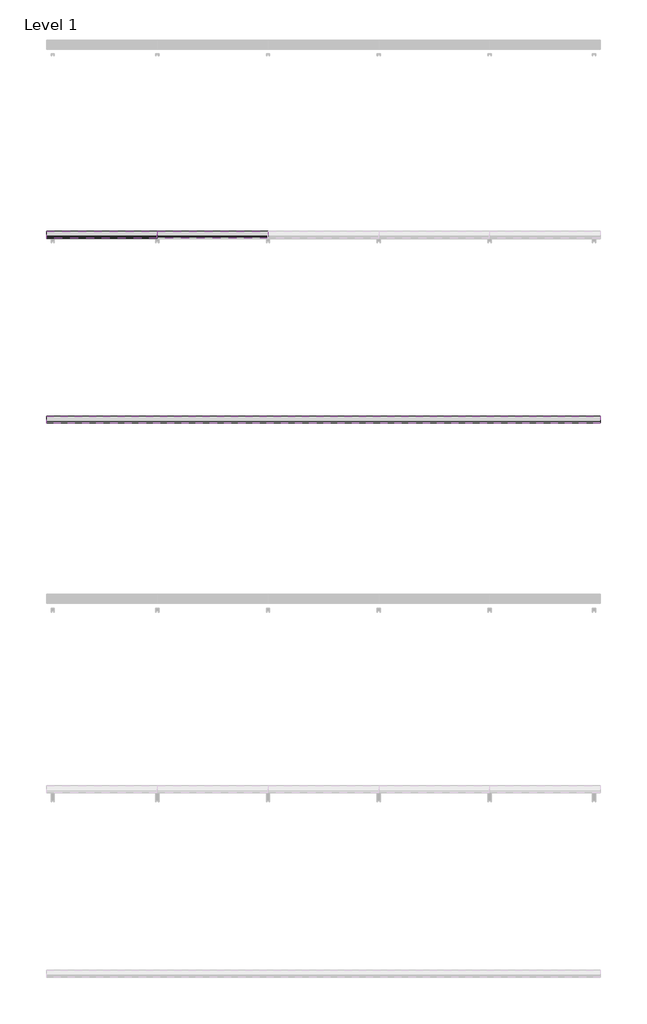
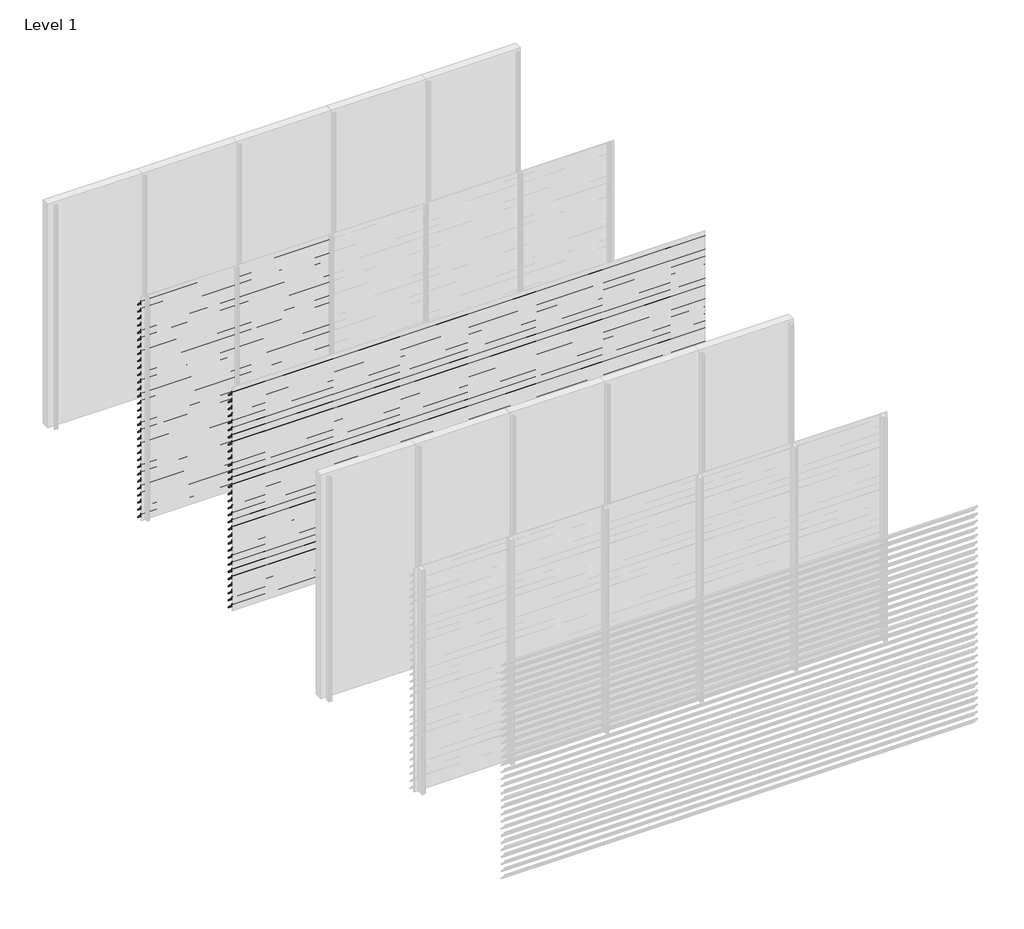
# One storey, part 18 of 24: 89 proxies.
"""IFC4 building model written with IfcOpenShell, lengths in millimetres."""

from ifc_helpers import new_model, si_unit, frame, origin, place, context, project, spatial, polyline, outline, extrude, element, save

model = new_model("IFC4")

# Units and contexts
model_context = context("Model", 3, world=origin())
ifc_project = project(units=[si_unit("LENGTHUNIT", "METRE", prefix="MILLI")], contexts=[model_context])

# Site, building, storey
site = spatial("IfcSite", under=ifc_project)
building = spatial("IfcBuilding", under=site)
storey = spatial("IfcBuildingStorey", under=building, Name="Level 1", Elevation=0.0)

# Proxies
placement = place(None, origin())
element("IfcBuildingElementProxy", 1, Name="Wall Sweeps", at=placement, inside=storey, context=model_context, shape_type="SweptSolid", body=[
    extrude(outline(polyline([(-11920.8, 2842.9), (-11922.3, 2842.9), (-11922.3, 2855.1762333), (-11998.0, 2930.4561238), (-11998.0, 2945.0), (-11996.5, 2945.0), (-11996.5, 2931.0798905), (-11920.8, 2855.8), (-11920.8, 2842.9)])), frame((0.0, 0.0, 0.0), z_axis=(1.0, 0.0, 0.0), x_axis=(0.0, 1.0, 0.0)), (0.0, 0.0, 1.0), 1200.0),
])
element("IfcBuildingElementProxy", 2, Name="Wall Sweeps", at=placement, inside=storey, context=model_context, shape_type="SweptSolid", body=[
    extrude(outline(polyline([(-11920.8, 2747.9), (-11922.3, 2747.9), (-11922.3, 2760.1762333), (-11998.0, 2835.4561238), (-11998.0, 2850.0), (-11996.5, 2850.0), (-11996.5, 2836.0798905), (-11920.8, 2760.8), (-11920.8, 2747.9)])), frame((0.0, 0.0, 0.0), z_axis=(1.0, 0.0, 0.0), x_axis=(0.0, 1.0, 0.0)), (0.0, 0.0, 1.0), 1200.0),
])
element("IfcBuildingElementProxy", 3, Name="Wall Sweeps", at=placement, inside=storey, context=model_context, shape_type="SweptSolid", body=[
    extrude(outline(polyline([(-11920.8, 2652.9), (-11922.3, 2652.9), (-11922.3, 2665.1762333), (-11998.0, 2740.4561238), (-11998.0, 2755.0), (-11996.5, 2755.0), (-11996.5, 2741.0798905), (-11920.8, 2665.8), (-11920.8, 2652.9)])), frame((0.0, 0.0, 0.0), z_axis=(1.0, 0.0, 0.0), x_axis=(0.0, 1.0, 0.0)), (0.0, 0.0, 1.0), 1200.0),
])
element("IfcBuildingElementProxy", 4, Name="Wall Sweeps", at=placement, inside=storey, context=model_context, shape_type="SweptSolid", body=[
    extrude(outline(polyline([(-11920.8, 2557.9), (-11922.3, 2557.9), (-11922.3, 2570.1762333), (-11998.0, 2645.4561238), (-11998.0, 2660.0), (-11996.5, 2660.0), (-11996.5, 2646.0798905), (-11920.8, 2570.8), (-11920.8, 2557.9)])), frame((0.0, 0.0, 0.0), z_axis=(1.0, 0.0, 0.0), x_axis=(0.0, 1.0, 0.0)), (0.0, 0.0, 1.0), 1200.0),
])
element("IfcBuildingElementProxy", 5, Name="Wall Sweeps", at=placement, inside=storey, context=model_context, shape_type="SweptSolid", body=[
    extrude(outline(polyline([(-11920.8, 2462.9), (-11922.3, 2462.9), (-11922.3, 2475.1762333), (-11998.0, 2550.4561238), (-11998.0, 2565.0), (-11996.5, 2565.0), (-11996.5, 2551.0798905), (-11920.8, 2475.8), (-11920.8, 2462.9)])), frame((0.0, 0.0, 0.0), z_axis=(1.0, 0.0, 0.0), x_axis=(0.0, 1.0, 0.0)), (0.0, 0.0, 1.0), 1200.0),
])
element("IfcBuildingElementProxy", 6, Name="Wall Sweeps", at=placement, inside=storey, context=model_context, shape_type="SweptSolid", body=[
    extrude(outline(polyline([(-11920.8, 2367.9), (-11922.3, 2367.9), (-11922.3, 2380.1762333), (-11998.0, 2455.4561238), (-11998.0, 2470.0), (-11996.5, 2470.0), (-11996.5, 2456.0798905), (-11920.8, 2380.8), (-11920.8, 2367.9)])), frame((0.0, 0.0, 0.0), z_axis=(1.0, 0.0, 0.0), x_axis=(0.0, 1.0, 0.0)), (0.0, 0.0, 1.0), 1200.0),
])
element("IfcBuildingElementProxy", 7, Name="Wall Sweeps", at=placement, inside=storey, context=model_context, shape_type="SweptSolid", body=[
    extrude(outline(polyline([(-11920.8, 2272.9), (-11922.3, 2272.9), (-11922.3, 2285.1762333), (-11998.0, 2360.4561238), (-11998.0, 2375.0), (-11996.5, 2375.0), (-11996.5, 2361.0798905), (-11920.8, 2285.8), (-11920.8, 2272.9)])), frame((0.0, 0.0, 0.0), z_axis=(1.0, 0.0, 0.0), x_axis=(0.0, 1.0, 0.0)), (0.0, 0.0, 1.0), 1200.0),
])
element("IfcBuildingElementProxy", 8, Name="Wall Sweeps", at=placement, inside=storey, context=model_context, shape_type="SweptSolid", body=[
    extrude(outline(polyline([(-11920.8, 2177.9), (-11922.3, 2177.9), (-11922.3, 2190.1762333), (-11998.0, 2265.4561238), (-11998.0, 2280.0), (-11996.5, 2280.0), (-11996.5, 2266.0798905), (-11920.8, 2190.8), (-11920.8, 2177.9)])), frame((0.0, 0.0, 0.0), z_axis=(1.0, 0.0, 0.0), x_axis=(0.0, 1.0, 0.0)), (0.0, 0.0, 1.0), 1200.0),
])
element("IfcBuildingElementProxy", 9, Name="Wall Sweeps", at=placement, inside=storey, context=model_context, shape_type="SweptSolid", body=[
    extrude(outline(polyline([(-11920.8, 2082.9), (-11922.3, 2082.9), (-11922.3, 2095.1762333), (-11998.0, 2170.4561238), (-11998.0, 2185.0), (-11996.5, 2185.0), (-11996.5, 2171.0798905), (-11920.8, 2095.8), (-11920.8, 2082.9)])), frame((0.0, 0.0, 0.0), z_axis=(1.0, 0.0, 0.0), x_axis=(0.0, 1.0, 0.0)), (0.0, 0.0, 1.0), 1200.0),
])
element("IfcBuildingElementProxy", 10, Name="Wall Sweeps", at=placement, inside=storey, context=model_context, shape_type="SweptSolid", body=[
    extrude(outline(polyline([(-11920.8, 1987.9), (-11922.3, 1987.9), (-11922.3, 2000.1762333), (-11998.0, 2075.4561238), (-11998.0, 2090.0), (-11996.5, 2090.0), (-11996.5, 2076.0798905), (-11920.8, 2000.8), (-11920.8, 1987.9)])), frame((0.0, 0.0, 0.0), z_axis=(1.0, 0.0, 0.0), x_axis=(0.0, 1.0, 0.0)), (0.0, 0.0, 1.0), 1200.0),
])
element("IfcBuildingElementProxy", 11, Name="Wall Sweeps", at=placement, inside=storey, context=model_context, shape_type="SweptSolid", body=[
    extrude(outline(polyline([(-11920.8, 1892.9), (-11922.3, 1892.9), (-11922.3, 1905.1762333), (-11998.0, 1980.4561238), (-11998.0, 1995.0), (-11996.5, 1995.0), (-11996.5, 1981.0798905), (-11920.8, 1905.8), (-11920.8, 1892.9)])), frame((0.0, 0.0, 0.0), z_axis=(1.0, 0.0, 0.0), x_axis=(0.0, 1.0, 0.0)), (0.0, 0.0, 1.0), 1200.0),
])
element("IfcBuildingElementProxy", 12, Name="Wall Sweeps", at=placement, inside=storey, context=model_context, shape_type="SweptSolid", body=[
    extrude(outline(polyline([(-11920.8, 1797.9), (-11922.3, 1797.9), (-11922.3, 1810.1762333), (-11998.0, 1885.4561238), (-11998.0, 1900.0), (-11996.5, 1900.0), (-11996.5, 1886.0798905), (-11920.8, 1810.8), (-11920.8, 1797.9)])), frame((0.0, 0.0, 0.0), z_axis=(1.0, 0.0, 0.0), x_axis=(0.0, 1.0, 0.0)), (0.0, 0.0, 1.0), 1200.0),
])
element("IfcBuildingElementProxy", 13, Name="Wall Sweeps", at=placement, inside=storey, context=model_context, shape_type="SweptSolid", body=[
    extrude(outline(polyline([(-11920.8, 1702.9), (-11922.3, 1702.9), (-11922.3, 1715.1762333), (-11998.0, 1790.4561238), (-11998.0, 1805.0), (-11996.5, 1805.0), (-11996.5, 1791.0798905), (-11920.8, 1715.8), (-11920.8, 1702.9)])), frame((0.0, 0.0, 0.0), z_axis=(1.0, 0.0, 0.0), x_axis=(0.0, 1.0, 0.0)), (0.0, 0.0, 1.0), 1200.0),
])
element("IfcBuildingElementProxy", 14, Name="Wall Sweeps", at=placement, inside=storey, context=model_context, shape_type="SweptSolid", body=[
    extrude(outline(polyline([(-11920.8, 1607.9), (-11922.3, 1607.9), (-11922.3, 1620.1762333), (-11998.0, 1695.4561238), (-11998.0, 1710.0), (-11996.5, 1710.0), (-11996.5, 1696.0798905), (-11920.8, 1620.8), (-11920.8, 1607.9)])), frame((0.0, 0.0, 0.0), z_axis=(1.0, 0.0, 0.0), x_axis=(0.0, 1.0, 0.0)), (0.0, 0.0, 1.0), 1200.0),
])
element("IfcBuildingElementProxy", 15, Name="Wall Sweeps", at=placement, inside=storey, context=model_context, shape_type="SweptSolid", body=[
    extrude(outline(polyline([(-11920.8, 1512.9), (-11922.3, 1512.9), (-11922.3, 1525.1762333), (-11998.0, 1600.4561238), (-11998.0, 1615.0), (-11996.5, 1615.0), (-11996.5, 1601.0798905), (-11920.8, 1525.8), (-11920.8, 1512.9)])), frame((0.0, 0.0, 0.0), z_axis=(1.0, 0.0, 0.0), x_axis=(0.0, 1.0, 0.0)), (0.0, 0.0, 1.0), 1200.0),
])
element("IfcBuildingElementProxy", 16, Name="Wall Sweeps", at=placement, inside=storey, context=model_context, shape_type="SweptSolid", body=[
    extrude(outline(polyline([(-11920.8, 1417.9), (-11922.3, 1417.9), (-11922.3, 1430.1762333), (-11998.0, 1505.4561238), (-11998.0, 1520.0), (-11996.5, 1520.0), (-11996.5, 1506.0798905), (-11920.8, 1430.8), (-11920.8, 1417.9)])), frame((0.0, 0.0, 0.0), z_axis=(1.0, 0.0, 0.0), x_axis=(0.0, 1.0, 0.0)), (0.0, 0.0, 1.0), 1200.0),
])
element("IfcBuildingElementProxy", 17, Name="Wall Sweeps", at=placement, inside=storey, context=model_context, shape_type="SweptSolid", body=[
    extrude(outline(polyline([(-11920.8, 1322.9), (-11922.3, 1322.9), (-11922.3, 1335.1762333), (-11998.0, 1410.4561238), (-11998.0, 1425.0), (-11996.5, 1425.0), (-11996.5, 1411.0798905), (-11920.8, 1335.8), (-11920.8, 1322.9)])), frame((0.0, 0.0, 0.0), z_axis=(1.0, 0.0, 0.0), x_axis=(0.0, 1.0, 0.0)), (0.0, 0.0, 1.0), 1200.0),
])
element("IfcBuildingElementProxy", 18, Name="Wall Sweeps", at=placement, inside=storey, context=model_context, shape_type="SweptSolid", body=[
    extrude(outline(polyline([(-11920.8, 1227.9), (-11922.3, 1227.9), (-11922.3, 1240.1762333), (-11998.0, 1315.4561238), (-11998.0, 1330.0), (-11996.5, 1330.0), (-11996.5, 1316.0798905), (-11920.8, 1240.8), (-11920.8, 1227.9)])), frame((0.0, 0.0, 0.0), z_axis=(1.0, 0.0, 0.0), x_axis=(0.0, 1.0, 0.0)), (0.0, 0.0, 1.0), 1200.0),
])
element("IfcBuildingElementProxy", 19, Name="Wall Sweeps", at=placement, inside=storey, context=model_context, shape_type="SweptSolid", body=[
    extrude(outline(polyline([(-11920.8, 1132.9), (-11922.3, 1132.9), (-11922.3, 1145.1762333), (-11998.0, 1220.4561238), (-11998.0, 1235.0), (-11996.5, 1235.0), (-11996.5, 1221.0798905), (-11920.8, 1145.8), (-11920.8, 1132.9)])), frame((0.0, 0.0, 0.0), z_axis=(1.0, 0.0, 0.0), x_axis=(0.0, 1.0, 0.0)), (0.0, 0.0, 1.0), 1200.0),
])
element("IfcBuildingElementProxy", 20, Name="Wall Sweeps", at=placement, inside=storey, context=model_context, shape_type="SweptSolid", body=[
    extrude(outline(polyline([(-11920.8, 1037.9), (-11922.3, 1037.9), (-11922.3, 1050.1762333), (-11998.0, 1125.4561238), (-11998.0, 1140.0), (-11996.5, 1140.0), (-11996.5, 1126.0798905), (-11920.8, 1050.8), (-11920.8, 1037.9)])), frame((0.0, 0.0, 0.0), z_axis=(1.0, 0.0, 0.0), x_axis=(0.0, 1.0, 0.0)), (0.0, 0.0, 1.0), 1200.0),
])
element("IfcBuildingElementProxy", 21, Name="Wall Sweeps", at=placement, inside=storey, context=model_context, shape_type="SweptSolid", body=[
    extrude(outline(polyline([(-11920.8, 942.9), (-11922.3, 942.9), (-11922.3, 955.1762333), (-11998.0, 1030.4561238), (-11998.0, 1045.0), (-11996.5, 1045.0), (-11996.5, 1031.0798905), (-11920.8, 955.8), (-11920.8, 942.9)])), frame((0.0, 0.0, 0.0), z_axis=(1.0, 0.0, 0.0), x_axis=(0.0, 1.0, 0.0)), (0.0, 0.0, 1.0), 1200.0),
])
element("IfcBuildingElementProxy", 22, Name="Wall Sweeps", at=placement, inside=storey, context=model_context, shape_type="SweptSolid", body=[
    extrude(outline(polyline([(-11920.8, 847.9), (-11922.3, 847.9), (-11922.3, 860.1762333), (-11998.0, 935.4561238), (-11998.0, 950.0), (-11996.5, 950.0), (-11996.5, 936.0798905), (-11920.8, 860.8), (-11920.8, 847.9)])), frame((0.0, 0.0, 0.0), z_axis=(1.0, 0.0, 0.0), x_axis=(0.0, 1.0, 0.0)), (0.0, 0.0, 1.0), 1200.0),
])
element("IfcBuildingElementProxy", 23, Name="Wall Sweeps", at=placement, inside=storey, context=model_context, shape_type="SweptSolid", body=[
    extrude(outline(polyline([(-11920.8, 752.9), (-11922.3, 752.9), (-11922.3, 765.1762333), (-11998.0, 840.4561238), (-11998.0, 855.0), (-11996.5, 855.0), (-11996.5, 841.0798905), (-11920.8, 765.8), (-11920.8, 752.9)])), frame((0.0, 0.0, 0.0), z_axis=(1.0, 0.0, 0.0), x_axis=(0.0, 1.0, 0.0)), (0.0, 0.0, 1.0), 1200.0),
])
element("IfcBuildingElementProxy", 24, Name="Wall Sweeps", at=placement, inside=storey, context=model_context, shape_type="SweptSolid", body=[
    extrude(outline(polyline([(-11920.8, 657.9), (-11922.3, 657.9), (-11922.3, 670.1762333), (-11998.0, 745.4561238), (-11998.0, 760.0), (-11996.5, 760.0), (-11996.5, 746.0798905), (-11920.8, 670.8), (-11920.8, 657.9)])), frame((0.0, 0.0, 0.0), z_axis=(1.0, 0.0, 0.0), x_axis=(0.0, 1.0, 0.0)), (0.0, 0.0, 1.0), 1200.0),
])
element("IfcBuildingElementProxy", 25, Name="Wall Sweeps", at=placement, inside=storey, context=model_context, shape_type="SweptSolid", body=[
    extrude(outline(polyline([(-11920.8, 562.9), (-11922.3, 562.9), (-11922.3, 575.1762333), (-11998.0, 650.4561238), (-11998.0, 665.0), (-11996.5, 665.0), (-11996.5, 651.0798905), (-11920.8, 575.8), (-11920.8, 562.9)])), frame((0.0, 0.0, 0.0), z_axis=(1.0, 0.0, 0.0), x_axis=(0.0, 1.0, 0.0)), (0.0, 0.0, 1.0), 1200.0),
])
element("IfcBuildingElementProxy", 26, Name="Wall Sweeps", at=placement, inside=storey, context=model_context, shape_type="SweptSolid", body=[
    extrude(outline(polyline([(-11920.8, 467.9), (-11922.3, 467.9), (-11922.3, 480.1762333), (-11998.0, 555.4561238), (-11998.0, 570.0), (-11996.5, 570.0), (-11996.5, 556.0798905), (-11920.8, 480.8), (-11920.8, 467.9)])), frame((0.0, 0.0, 0.0), z_axis=(1.0, 0.0, 0.0), x_axis=(0.0, 1.0, 0.0)), (0.0, 0.0, 1.0), 1200.0),
])
element("IfcBuildingElementProxy", 27, Name="Wall Sweeps", at=placement, inside=storey, context=model_context, shape_type="SweptSolid", body=[
    extrude(outline(polyline([(-11920.8, 372.9), (-11922.3, 372.9), (-11922.3, 385.1762333), (-11998.0, 460.4561238), (-11998.0, 475.0), (-11996.5, 475.0), (-11996.5, 461.0798905), (-11920.8, 385.8), (-11920.8, 372.9)])), frame((0.0, 0.0, 0.0), z_axis=(1.0, 0.0, 0.0), x_axis=(0.0, 1.0, 0.0)), (0.0, 0.0, 1.0), 1200.0),
])
element("IfcBuildingElementProxy", 28, Name="Wall Sweeps", at=placement, inside=storey, context=model_context, shape_type="SweptSolid", body=[
    extrude(outline(polyline([(-11920.8, 277.9), (-11922.3, 277.9), (-11922.3, 290.1762333), (-11998.0, 365.4561238), (-11998.0, 380.0), (-11996.5, 380.0), (-11996.5, 366.0798905), (-11920.8, 290.8), (-11920.8, 277.9)])), frame((0.0, 0.0, 0.0), z_axis=(1.0, 0.0, 0.0), x_axis=(0.0, 1.0, 0.0)), (0.0, 0.0, 1.0), 1200.0),
])
element("IfcBuildingElementProxy", 29, Name="Wall Sweeps", at=placement, inside=storey, context=model_context, shape_type="SweptSolid", body=[
    extrude(outline(polyline([(-11920.8, 182.9), (-11922.3, 182.9), (-11922.3, 195.1762333), (-11998.0, 270.4561238), (-11998.0, 285.0), (-11996.5, 285.0), (-11996.5, 271.0798905), (-11920.8, 195.8), (-11920.8, 182.9)])), frame((0.0, 0.0, 0.0), z_axis=(1.0, 0.0, 0.0), x_axis=(0.0, 1.0, 0.0)), (0.0, 0.0, 1.0), 1200.0),
])
element("IfcBuildingElementProxy", 30, Name="Wall Sweeps", at=placement, inside=storey, context=model_context, shape_type="SweptSolid", body=[
    extrude(outline(polyline([(-11920.8, 87.9), (-11922.3, 87.9), (-11922.3, 100.1762333), (-11998.0, 175.4561238), (-11998.0, 190.0), (-11996.5, 190.0), (-11996.5, 176.0798905), (-11920.8, 100.8), (-11920.8, 87.9)])), frame((0.0, 0.0, 0.0), z_axis=(1.0, 0.0, 0.0), x_axis=(0.0, 1.0, 0.0)), (0.0, 0.0, 1.0), 1200.0),
])
element("IfcBuildingElementProxy", 31, Name="Wall Sweeps", at=placement, inside=storey, context=model_context, shape_type="SweptSolid", body=[
    extrude(outline(polyline([(-11920.8, -7.1), (-11922.3, -7.1), (-11922.3, 5.1762333), (-11998.0, 80.4561238), (-11998.0, 95.0), (-11996.5, 95.0), (-11996.5, 81.0798905), (-11920.8, 5.8), (-11920.8, -7.1)])), frame((0.0, 0.0, 0.0), z_axis=(1.0, 0.0, 0.0), x_axis=(0.0, 1.0, 0.0)), (0.0, 0.0, 1.0), 1200.0),
])
element("IfcBuildingElementProxy", 32, Name="Wall Sweeps", at=placement, inside=storey, context=model_context, shape_type="SweptSolid", body=[
    extrude(outline(polyline([(-11920.8, 2842.9), (-11922.3, 2842.9), (-11922.3, 2855.1762333), (-11998.0, 2930.4561238), (-11998.0, 2945.0), (-11996.5, 2945.0), (-11996.5, 2931.0798905), (-11920.8, 2855.8), (-11920.8, 2842.9)])), frame((1200.0, 0.0, 0.0), z_axis=(1.0, 0.0, 0.0), x_axis=(0.0, 1.0, 0.0)), (0.0, 0.0, 1.0), 1200.0),
])
element("IfcBuildingElementProxy", 33, Name="Wall Sweeps", at=placement, inside=storey, context=model_context, shape_type="SweptSolid", body=[
    extrude(outline(polyline([(-11920.8, 2747.9), (-11922.3, 2747.9), (-11922.3, 2760.1762333), (-11998.0, 2835.4561238), (-11998.0, 2850.0), (-11996.5, 2850.0), (-11996.5, 2836.0798905), (-11920.8, 2760.8), (-11920.8, 2747.9)])), frame((1200.0, 0.0, 0.0), z_axis=(1.0, 0.0, 0.0), x_axis=(0.0, 1.0, 0.0)), (0.0, 0.0, 1.0), 1200.0),
])
element("IfcBuildingElementProxy", 34, Name="Wall Sweeps", at=placement, inside=storey, context=model_context, shape_type="SweptSolid", body=[
    extrude(outline(polyline([(-11920.8, 2652.9), (-11922.3, 2652.9), (-11922.3, 2665.1762333), (-11998.0, 2740.4561238), (-11998.0, 2755.0), (-11996.5, 2755.0), (-11996.5, 2741.0798905), (-11920.8, 2665.8), (-11920.8, 2652.9)])), frame((1200.0, 0.0, 0.0), z_axis=(1.0, 0.0, 0.0), x_axis=(0.0, 1.0, 0.0)), (0.0, 0.0, 1.0), 1200.0),
])
element("IfcBuildingElementProxy", 35, Name="Wall Sweeps", at=placement, inside=storey, context=model_context, shape_type="SweptSolid", body=[
    extrude(outline(polyline([(-11920.8, 2557.9), (-11922.3, 2557.9), (-11922.3, 2570.1762333), (-11998.0, 2645.4561238), (-11998.0, 2660.0), (-11996.5, 2660.0), (-11996.5, 2646.0798905), (-11920.8, 2570.8), (-11920.8, 2557.9)])), frame((1200.0, 0.0, 0.0), z_axis=(1.0, 0.0, 0.0), x_axis=(0.0, 1.0, 0.0)), (0.0, 0.0, 1.0), 1200.0),
])
element("IfcBuildingElementProxy", 36, Name="Wall Sweeps", at=placement, inside=storey, context=model_context, shape_type="SweptSolid", body=[
    extrude(outline(polyline([(-11920.8, 2462.9), (-11922.3, 2462.9), (-11922.3, 2475.1762333), (-11998.0, 2550.4561238), (-11998.0, 2565.0), (-11996.5, 2565.0), (-11996.5, 2551.0798905), (-11920.8, 2475.8), (-11920.8, 2462.9)])), frame((1200.0, 0.0, 0.0), z_axis=(1.0, 0.0, 0.0), x_axis=(0.0, 1.0, 0.0)), (0.0, 0.0, 1.0), 1200.0),
])
element("IfcBuildingElementProxy", 37, Name="Wall Sweeps", at=placement, inside=storey, context=model_context, shape_type="SweptSolid", body=[
    extrude(outline(polyline([(-11920.8, 2367.9), (-11922.3, 2367.9), (-11922.3, 2380.1762333), (-11998.0, 2455.4561238), (-11998.0, 2470.0), (-11996.5, 2470.0), (-11996.5, 2456.0798905), (-11920.8, 2380.8), (-11920.8, 2367.9)])), frame((1200.0, 0.0, 0.0), z_axis=(1.0, 0.0, 0.0), x_axis=(0.0, 1.0, 0.0)), (0.0, 0.0, 1.0), 1200.0),
])
element("IfcBuildingElementProxy", 38, Name="Wall Sweeps", at=placement, inside=storey, context=model_context, shape_type="SweptSolid", body=[
    extrude(outline(polyline([(-11920.8, 2272.9), (-11922.3, 2272.9), (-11922.3, 2285.1762333), (-11998.0, 2360.4561238), (-11998.0, 2375.0), (-11996.5, 2375.0), (-11996.5, 2361.0798905), (-11920.8, 2285.8), (-11920.8, 2272.9)])), frame((1200.0, 0.0, 0.0), z_axis=(1.0, 0.0, 0.0), x_axis=(0.0, 1.0, 0.0)), (0.0, 0.0, 1.0), 1200.0),
])
element("IfcBuildingElementProxy", 39, Name="Wall Sweeps", at=placement, inside=storey, context=model_context, shape_type="SweptSolid", body=[
    extrude(outline(polyline([(-11920.8, 2177.9), (-11922.3, 2177.9), (-11922.3, 2190.1762333), (-11998.0, 2265.4561238), (-11998.0, 2280.0), (-11996.5, 2280.0), (-11996.5, 2266.0798905), (-11920.8, 2190.8), (-11920.8, 2177.9)])), frame((1200.0, 0.0, 0.0), z_axis=(1.0, 0.0, 0.0), x_axis=(0.0, 1.0, 0.0)), (0.0, 0.0, 1.0), 1200.0),
])
element("IfcBuildingElementProxy", 40, Name="Wall Sweeps", at=placement, inside=storey, context=model_context, shape_type="SweptSolid", body=[
    extrude(outline(polyline([(-11920.8, 2082.9), (-11922.3, 2082.9), (-11922.3, 2095.1762333), (-11998.0, 2170.4561238), (-11998.0, 2185.0), (-11996.5, 2185.0), (-11996.5, 2171.0798905), (-11920.8, 2095.8), (-11920.8, 2082.9)])), frame((1200.0, 0.0, 0.0), z_axis=(1.0, 0.0, 0.0), x_axis=(0.0, 1.0, 0.0)), (0.0, 0.0, 1.0), 1200.0),
])
element("IfcBuildingElementProxy", 41, Name="Wall Sweeps", at=placement, inside=storey, context=model_context, shape_type="SweptSolid", body=[
    extrude(outline(polyline([(-11920.8, 1987.9), (-11922.3, 1987.9), (-11922.3, 2000.1762333), (-11998.0, 2075.4561238), (-11998.0, 2090.0), (-11996.5, 2090.0), (-11996.5, 2076.0798905), (-11920.8, 2000.8), (-11920.8, 1987.9)])), frame((1200.0, 0.0, 0.0), z_axis=(1.0, 0.0, 0.0), x_axis=(0.0, 1.0, 0.0)), (0.0, 0.0, 1.0), 1200.0),
])
element("IfcBuildingElementProxy", 42, Name="Wall Sweeps", at=placement, inside=storey, context=model_context, shape_type="SweptSolid", body=[
    extrude(outline(polyline([(-11920.8, 1892.9), (-11922.3, 1892.9), (-11922.3, 1905.1762333), (-11998.0, 1980.4561238), (-11998.0, 1995.0), (-11996.5, 1995.0), (-11996.5, 1981.0798905), (-11920.8, 1905.8), (-11920.8, 1892.9)])), frame((1200.0, 0.0, 0.0), z_axis=(1.0, 0.0, 0.0), x_axis=(0.0, 1.0, 0.0)), (0.0, 0.0, 1.0), 1200.0),
])
element("IfcBuildingElementProxy", 43, Name="Wall Sweeps", at=placement, inside=storey, context=model_context, shape_type="SweptSolid", body=[
    extrude(outline(polyline([(-11920.8, 1797.9), (-11922.3, 1797.9), (-11922.3, 1810.1762333), (-11998.0, 1885.4561238), (-11998.0, 1900.0), (-11996.5, 1900.0), (-11996.5, 1886.0798905), (-11920.8, 1810.8), (-11920.8, 1797.9)])), frame((1200.0, 0.0, 0.0), z_axis=(1.0, 0.0, 0.0), x_axis=(0.0, 1.0, 0.0)), (0.0, 0.0, 1.0), 1200.0),
])
element("IfcBuildingElementProxy", 44, Name="Wall Sweeps", at=placement, inside=storey, context=model_context, shape_type="SweptSolid", body=[
    extrude(outline(polyline([(-11920.8, 1702.9), (-11922.3, 1702.9), (-11922.3, 1715.1762333), (-11998.0, 1790.4561238), (-11998.0, 1805.0), (-11996.5, 1805.0), (-11996.5, 1791.0798905), (-11920.8, 1715.8), (-11920.8, 1702.9)])), frame((1200.0, 0.0, 0.0), z_axis=(1.0, 0.0, 0.0), x_axis=(0.0, 1.0, 0.0)), (0.0, 0.0, 1.0), 1200.0),
])
element("IfcBuildingElementProxy", 45, Name="Wall Sweeps", at=placement, inside=storey, context=model_context, shape_type="SweptSolid", body=[
    extrude(outline(polyline([(-11920.8, 1607.9), (-11922.3, 1607.9), (-11922.3, 1620.1762333), (-11998.0, 1695.4561238), (-11998.0, 1710.0), (-11996.5, 1710.0), (-11996.5, 1696.0798905), (-11920.8, 1620.8), (-11920.8, 1607.9)])), frame((1200.0, 0.0, 0.0), z_axis=(1.0, 0.0, 0.0), x_axis=(0.0, 1.0, 0.0)), (0.0, 0.0, 1.0), 1200.0),
])
element("IfcBuildingElementProxy", 46, Name="Wall Sweeps", at=placement, inside=storey, context=model_context, shape_type="SweptSolid", body=[
    extrude(outline(polyline([(-11920.8, 1512.9), (-11922.3, 1512.9), (-11922.3, 1525.1762333), (-11998.0, 1600.4561238), (-11998.0, 1615.0), (-11996.5, 1615.0), (-11996.5, 1601.0798905), (-11920.8, 1525.8), (-11920.8, 1512.9)])), frame((1200.0, 0.0, 0.0), z_axis=(1.0, 0.0, 0.0), x_axis=(0.0, 1.0, 0.0)), (0.0, 0.0, 1.0), 1200.0),
])
element("IfcBuildingElementProxy", 47, Name="Wall Sweeps", at=placement, inside=storey, context=model_context, shape_type="SweptSolid", body=[
    extrude(outline(polyline([(-11920.8, 1417.9), (-11922.3, 1417.9), (-11922.3, 1430.1762333), (-11998.0, 1505.4561238), (-11998.0, 1520.0), (-11996.5, 1520.0), (-11996.5, 1506.0798905), (-11920.8, 1430.8), (-11920.8, 1417.9)])), frame((1200.0, 0.0, 0.0), z_axis=(1.0, 0.0, 0.0), x_axis=(0.0, 1.0, 0.0)), (0.0, 0.0, 1.0), 1200.0),
])
element("IfcBuildingElementProxy", 48, Name="Wall Sweeps", at=placement, inside=storey, context=model_context, shape_type="SweptSolid", body=[
    extrude(outline(polyline([(-11920.8, 1322.9), (-11922.3, 1322.9), (-11922.3, 1335.1762333), (-11998.0, 1410.4561238), (-11998.0, 1425.0), (-11996.5, 1425.0), (-11996.5, 1411.0798905), (-11920.8, 1335.8), (-11920.8, 1322.9)])), frame((1200.0, 0.0, 0.0), z_axis=(1.0, 0.0, 0.0), x_axis=(0.0, 1.0, 0.0)), (0.0, 0.0, 1.0), 1200.0),
])
element("IfcBuildingElementProxy", 49, Name="Wall Sweeps", at=placement, inside=storey, context=model_context, shape_type="SweptSolid", body=[
    extrude(outline(polyline([(-11920.8, 1227.9), (-11922.3, 1227.9), (-11922.3, 1240.1762333), (-11998.0, 1315.4561238), (-11998.0, 1330.0), (-11996.5, 1330.0), (-11996.5, 1316.0798905), (-11920.8, 1240.8), (-11920.8, 1227.9)])), frame((1200.0, 0.0, 0.0), z_axis=(1.0, 0.0, 0.0), x_axis=(0.0, 1.0, 0.0)), (0.0, 0.0, 1.0), 1200.0),
])
element("IfcBuildingElementProxy", 50, Name="Wall Sweeps", at=placement, inside=storey, context=model_context, shape_type="SweptSolid", body=[
    extrude(outline(polyline([(-11920.8, 1132.9), (-11922.3, 1132.9), (-11922.3, 1145.1762333), (-11998.0, 1220.4561238), (-11998.0, 1235.0), (-11996.5, 1235.0), (-11996.5, 1221.0798905), (-11920.8, 1145.8), (-11920.8, 1132.9)])), frame((1200.0, 0.0, 0.0), z_axis=(1.0, 0.0, 0.0), x_axis=(0.0, 1.0, 0.0)), (0.0, 0.0, 1.0), 1200.0),
])
element("IfcBuildingElementProxy", 51, Name="Wall Sweeps", at=placement, inside=storey, context=model_context, shape_type="SweptSolid", body=[
    extrude(outline(polyline([(-13920.8, 2842.9), (-13922.3, 2842.9), (-13922.3, 2855.1762333), (-13998.0, 2930.4561238), (-13998.0, 2945.0), (-13996.5, 2945.0), (-13996.5, 2931.0798905), (-13920.8, 2855.8), (-13920.8, 2842.9)])), frame((0.0, 0.0, 0.0), z_axis=(1.0, 0.0, 0.0), x_axis=(0.0, 1.0, 0.0)), (0.0, 0.0, 1.0), 6000.0),
])
element("IfcBuildingElementProxy", 52, Name="Wall Sweeps", at=placement, inside=storey, context=model_context, shape_type="SweptSolid", body=[
    extrude(outline(polyline([(-13920.8, 2747.9), (-13922.3, 2747.9), (-13922.3, 2760.1762333), (-13998.0, 2835.4561238), (-13998.0, 2850.0), (-13996.5, 2850.0), (-13996.5, 2836.0798905), (-13920.8, 2760.8), (-13920.8, 2747.9)])), frame((0.0, 0.0, 0.0), z_axis=(1.0, 0.0, 0.0), x_axis=(0.0, 1.0, 0.0)), (0.0, 0.0, 1.0), 6000.0),
])
element("IfcBuildingElementProxy", 53, Name="Wall Sweeps", at=placement, inside=storey, context=model_context, shape_type="SweptSolid", body=[
    extrude(outline(polyline([(-13920.8, 2652.9), (-13922.3, 2652.9), (-13922.3, 2665.1762333), (-13998.0, 2740.4561238), (-13998.0, 2755.0), (-13996.5, 2755.0), (-13996.5, 2741.0798905), (-13920.8, 2665.8), (-13920.8, 2652.9)])), frame((0.0, 0.0, 0.0), z_axis=(1.0, 0.0, 0.0), x_axis=(0.0, 1.0, 0.0)), (0.0, 0.0, 1.0), 6000.0),
])
element("IfcBuildingElementProxy", 54, Name="Wall Sweeps", at=placement, inside=storey, context=model_context, shape_type="SweptSolid", body=[
    extrude(outline(polyline([(-13920.8, 2557.9), (-13922.3, 2557.9), (-13922.3, 2570.1762333), (-13998.0, 2645.4561238), (-13998.0, 2660.0), (-13996.5, 2660.0), (-13996.5, 2646.0798905), (-13920.8, 2570.8), (-13920.8, 2557.9)])), frame((0.0, 0.0, 0.0), z_axis=(1.0, 0.0, 0.0), x_axis=(0.0, 1.0, 0.0)), (0.0, 0.0, 1.0), 6000.0),
])
element("IfcBuildingElementProxy", 55, Name="Wall Sweeps", at=placement, inside=storey, context=model_context, shape_type="SweptSolid", body=[
    extrude(outline(polyline([(-13920.8, 2462.9), (-13922.3, 2462.9), (-13922.3, 2475.1762333), (-13998.0, 2550.4561238), (-13998.0, 2565.0), (-13996.5, 2565.0), (-13996.5, 2551.0798905), (-13920.8, 2475.8), (-13920.8, 2462.9)])), frame((0.0, 0.0, 0.0), z_axis=(1.0, 0.0, 0.0), x_axis=(0.0, 1.0, 0.0)), (0.0, 0.0, 1.0), 6000.0),
])
element("IfcBuildingElementProxy", 56, Name="Wall Sweeps", at=placement, inside=storey, context=model_context, shape_type="SweptSolid", body=[
    extrude(outline(polyline([(-13920.8, 2367.9), (-13922.3, 2367.9), (-13922.3, 2380.1762333), (-13998.0, 2455.4561238), (-13998.0, 2470.0), (-13996.5, 2470.0), (-13996.5, 2456.0798905), (-13920.8, 2380.8), (-13920.8, 2367.9)])), frame((0.0, 0.0, 0.0), z_axis=(1.0, 0.0, 0.0), x_axis=(0.0, 1.0, 0.0)), (0.0, 0.0, 1.0), 6000.0),
])
element("IfcBuildingElementProxy", 57, Name="Wall Sweeps", at=placement, inside=storey, context=model_context, shape_type="SweptSolid", body=[
    extrude(outline(polyline([(-13920.8, 2272.9), (-13922.3, 2272.9), (-13922.3, 2285.1762333), (-13998.0, 2360.4561238), (-13998.0, 2375.0), (-13996.5, 2375.0), (-13996.5, 2361.0798905), (-13920.8, 2285.8), (-13920.8, 2272.9)])), frame((0.0, 0.0, 0.0), z_axis=(1.0, 0.0, 0.0), x_axis=(0.0, 1.0, 0.0)), (0.0, 0.0, 1.0), 6000.0),
])
element("IfcBuildingElementProxy", 58, Name="Wall Sweeps", at=placement, inside=storey, context=model_context, shape_type="SweptSolid", body=[
    extrude(outline(polyline([(-13920.8, 2177.9), (-13922.3, 2177.9), (-13922.3, 2190.1762333), (-13998.0, 2265.4561238), (-13998.0, 2280.0), (-13996.5, 2280.0), (-13996.5, 2266.0798905), (-13920.8, 2190.8), (-13920.8, 2177.9)])), frame((0.0, 0.0, 0.0), z_axis=(1.0, 0.0, 0.0), x_axis=(0.0, 1.0, 0.0)), (0.0, 0.0, 1.0), 6000.0),
])
element("IfcBuildingElementProxy", 59, Name="Wall Sweeps", at=placement, inside=storey, context=model_context, shape_type="SweptSolid", body=[
    extrude(outline(polyline([(-13920.8, 2082.9), (-13922.3, 2082.9), (-13922.3, 2095.1762333), (-13998.0, 2170.4561238), (-13998.0, 2185.0), (-13996.5, 2185.0), (-13996.5, 2171.0798905), (-13920.8, 2095.8), (-13920.8, 2082.9)])), frame((0.0, 0.0, 0.0), z_axis=(1.0, 0.0, 0.0), x_axis=(0.0, 1.0, 0.0)), (0.0, 0.0, 1.0), 6000.0),
])
element("IfcBuildingElementProxy", 60, Name="Wall Sweeps", at=placement, inside=storey, context=model_context, shape_type="SweptSolid", body=[
    extrude(outline(polyline([(-13920.8, 1987.9), (-13922.3, 1987.9), (-13922.3, 2000.1762333), (-13998.0, 2075.4561238), (-13998.0, 2090.0), (-13996.5, 2090.0), (-13996.5, 2076.0798905), (-13920.8, 2000.8), (-13920.8, 1987.9)])), frame((0.0, 0.0, 0.0), z_axis=(1.0, 0.0, 0.0), x_axis=(0.0, 1.0, 0.0)), (0.0, 0.0, 1.0), 6000.0),
])
element("IfcBuildingElementProxy", 61, Name="Wall Sweeps", at=placement, inside=storey, context=model_context, shape_type="SweptSolid", body=[
    extrude(outline(polyline([(-13920.8, 1892.9), (-13922.3, 1892.9), (-13922.3, 1905.1762333), (-13998.0, 1980.4561238), (-13998.0, 1995.0), (-13996.5, 1995.0), (-13996.5, 1981.0798905), (-13920.8, 1905.8), (-13920.8, 1892.9)])), frame((0.0, 0.0, 0.0), z_axis=(1.0, 0.0, 0.0), x_axis=(0.0, 1.0, 0.0)), (0.0, 0.0, 1.0), 6000.0),
])
element("IfcBuildingElementProxy", 62, Name="Wall Sweeps", at=placement, inside=storey, context=model_context, shape_type="SweptSolid", body=[
    extrude(outline(polyline([(-13920.8, 1797.9), (-13922.3, 1797.9), (-13922.3, 1810.1762333), (-13998.0, 1885.4561238), (-13998.0, 1900.0), (-13996.5, 1900.0), (-13996.5, 1886.0798905), (-13920.8, 1810.8), (-13920.8, 1797.9)])), frame((0.0, 0.0, 0.0), z_axis=(1.0, 0.0, 0.0), x_axis=(0.0, 1.0, 0.0)), (0.0, 0.0, 1.0), 6000.0),
])
element("IfcBuildingElementProxy", 63, Name="Wall Sweeps", at=placement, inside=storey, context=model_context, shape_type="SweptSolid", body=[
    extrude(outline(polyline([(-13920.8, 1702.9), (-13922.3, 1702.9), (-13922.3, 1715.1762333), (-13998.0, 1790.4561238), (-13998.0, 1805.0), (-13996.5, 1805.0), (-13996.5, 1791.0798905), (-13920.8, 1715.8), (-13920.8, 1702.9)])), frame((0.0, 0.0, 0.0), z_axis=(1.0, 0.0, 0.0), x_axis=(0.0, 1.0, 0.0)), (0.0, 0.0, 1.0), 6000.0),
])
element("IfcBuildingElementProxy", 64, Name="Wall Sweeps", at=placement, inside=storey, context=model_context, shape_type="SweptSolid", body=[
    extrude(outline(polyline([(-13920.8, 1607.9), (-13922.3, 1607.9), (-13922.3, 1620.1762333), (-13998.0, 1695.4561238), (-13998.0, 1710.0), (-13996.5, 1710.0), (-13996.5, 1696.0798905), (-13920.8, 1620.8), (-13920.8, 1607.9)])), frame((0.0, 0.0, 0.0), z_axis=(1.0, 0.0, 0.0), x_axis=(0.0, 1.0, 0.0)), (0.0, 0.0, 1.0), 6000.0),
])
element("IfcBuildingElementProxy", 65, Name="Wall Sweeps", at=placement, inside=storey, context=model_context, shape_type="SweptSolid", body=[
    extrude(outline(polyline([(-13920.8, 1512.9), (-13922.3, 1512.9), (-13922.3, 1525.1762333), (-13998.0, 1600.4561238), (-13998.0, 1615.0), (-13996.5, 1615.0), (-13996.5, 1601.0798905), (-13920.8, 1525.8), (-13920.8, 1512.9)])), frame((0.0, 0.0, 0.0), z_axis=(1.0, 0.0, 0.0), x_axis=(0.0, 1.0, 0.0)), (0.0, 0.0, 1.0), 6000.0),
])
element("IfcBuildingElementProxy", 66, Name="Wall Sweeps", at=placement, inside=storey, context=model_context, shape_type="SweptSolid", body=[
    extrude(outline(polyline([(-13920.8, 1417.9), (-13922.3, 1417.9), (-13922.3, 1430.1762333), (-13998.0, 1505.4561238), (-13998.0, 1520.0), (-13996.5, 1520.0), (-13996.5, 1506.0798905), (-13920.8, 1430.8), (-13920.8, 1417.9)])), frame((0.0, 0.0, 0.0), z_axis=(1.0, 0.0, 0.0), x_axis=(0.0, 1.0, 0.0)), (0.0, 0.0, 1.0), 6000.0),
])
element("IfcBuildingElementProxy", 67, Name="Wall Sweeps", at=placement, inside=storey, context=model_context, shape_type="SweptSolid", body=[
    extrude(outline(polyline([(-13920.8, 1322.9), (-13922.3, 1322.9), (-13922.3, 1335.1762333), (-13998.0, 1410.4561238), (-13998.0, 1425.0), (-13996.5, 1425.0), (-13996.5, 1411.0798905), (-13920.8, 1335.8), (-13920.8, 1322.9)])), frame((0.0, 0.0, 0.0), z_axis=(1.0, 0.0, 0.0), x_axis=(0.0, 1.0, 0.0)), (0.0, 0.0, 1.0), 6000.0),
])
element("IfcBuildingElementProxy", 68, Name="Wall Sweeps", at=placement, inside=storey, context=model_context, shape_type="SweptSolid", body=[
    extrude(outline(polyline([(-13920.8, 1227.9), (-13922.3, 1227.9), (-13922.3, 1240.1762333), (-13998.0, 1315.4561238), (-13998.0, 1330.0), (-13996.5, 1330.0), (-13996.5, 1316.0798905), (-13920.8, 1240.8), (-13920.8, 1227.9)])), frame((0.0, 0.0, 0.0), z_axis=(1.0, 0.0, 0.0), x_axis=(0.0, 1.0, 0.0)), (0.0, 0.0, 1.0), 6000.0),
])
element("IfcBuildingElementProxy", 69, Name="Wall Sweeps", at=placement, inside=storey, context=model_context, shape_type="SweptSolid", body=[
    extrude(outline(polyline([(-13920.8, 1132.9), (-13922.3, 1132.9), (-13922.3, 1145.1762333), (-13998.0, 1220.4561238), (-13998.0, 1235.0), (-13996.5, 1235.0), (-13996.5, 1221.0798905), (-13920.8, 1145.8), (-13920.8, 1132.9)])), frame((0.0, 0.0, 0.0), z_axis=(1.0, 0.0, 0.0), x_axis=(0.0, 1.0, 0.0)), (0.0, 0.0, 1.0), 6000.0),
])
element("IfcBuildingElementProxy", 70, Name="Wall Sweeps", at=placement, inside=storey, context=model_context, shape_type="SweptSolid", body=[
    extrude(outline(polyline([(-13920.8, 1037.9), (-13922.3, 1037.9), (-13922.3, 1050.1762333), (-13998.0, 1125.4561238), (-13998.0, 1140.0), (-13996.5, 1140.0), (-13996.5, 1126.0798905), (-13920.8, 1050.8), (-13920.8, 1037.9)])), frame((0.0, 0.0, 0.0), z_axis=(1.0, 0.0, 0.0), x_axis=(0.0, 1.0, 0.0)), (0.0, 0.0, 1.0), 6000.0),
])
element("IfcBuildingElementProxy", 71, Name="Wall Sweeps", at=placement, inside=storey, context=model_context, shape_type="SweptSolid", body=[
    extrude(outline(polyline([(-13920.8, 942.9), (-13922.3, 942.9), (-13922.3, 955.1762333), (-13998.0, 1030.4561238), (-13998.0, 1045.0), (-13996.5, 1045.0), (-13996.5, 1031.0798905), (-13920.8, 955.8), (-13920.8, 942.9)])), frame((0.0, 0.0, 0.0), z_axis=(1.0, 0.0, 0.0), x_axis=(0.0, 1.0, 0.0)), (0.0, 0.0, 1.0), 6000.0),
])
element("IfcBuildingElementProxy", 72, Name="Wall Sweeps", at=placement, inside=storey, context=model_context, shape_type="SweptSolid", body=[
    extrude(outline(polyline([(-13920.8, 847.9), (-13922.3, 847.9), (-13922.3, 860.1762333), (-13998.0, 935.4561238), (-13998.0, 950.0), (-13996.5, 950.0), (-13996.5, 936.0798905), (-13920.8, 860.8), (-13920.8, 847.9)])), frame((0.0, 0.0, 0.0), z_axis=(1.0, 0.0, 0.0), x_axis=(0.0, 1.0, 0.0)), (0.0, 0.0, 1.0), 6000.0),
])
element("IfcBuildingElementProxy", 73, Name="Wall Sweeps", at=placement, inside=storey, context=model_context, shape_type="SweptSolid", body=[
    extrude(outline(polyline([(-13920.8, 752.9), (-13922.3, 752.9), (-13922.3, 765.1762333), (-13998.0, 840.4561238), (-13998.0, 855.0), (-13996.5, 855.0), (-13996.5, 841.0798905), (-13920.8, 765.8), (-13920.8, 752.9)])), frame((0.0, 0.0, 0.0), z_axis=(1.0, 0.0, 0.0), x_axis=(0.0, 1.0, 0.0)), (0.0, 0.0, 1.0), 6000.0),
])
element("IfcBuildingElementProxy", 74, Name="Wall Sweeps", at=placement, inside=storey, context=model_context, shape_type="SweptSolid", body=[
    extrude(outline(polyline([(-13920.8, 657.9), (-13922.3, 657.9), (-13922.3, 670.1762333), (-13998.0, 745.4561238), (-13998.0, 760.0), (-13996.5, 760.0), (-13996.5, 746.0798905), (-13920.8, 670.8), (-13920.8, 657.9)])), frame((0.0, 0.0, 0.0), z_axis=(1.0, 0.0, 0.0), x_axis=(0.0, 1.0, 0.0)), (0.0, 0.0, 1.0), 6000.0),
])
element("IfcBuildingElementProxy", 75, Name="Wall Sweeps", at=placement, inside=storey, context=model_context, shape_type="SweptSolid", body=[
    extrude(outline(polyline([(-13920.8, 562.9), (-13922.3, 562.9), (-13922.3, 575.1762333), (-13998.0, 650.4561238), (-13998.0, 665.0), (-13996.5, 665.0), (-13996.5, 651.0798905), (-13920.8, 575.8), (-13920.8, 562.9)])), frame((0.0, 0.0, 0.0), z_axis=(1.0, 0.0, 0.0), x_axis=(0.0, 1.0, 0.0)), (0.0, 0.0, 1.0), 6000.0),
])
element("IfcBuildingElementProxy", 76, Name="Wall Sweeps", at=placement, inside=storey, context=model_context, shape_type="SweptSolid", body=[
    extrude(outline(polyline([(-13920.8, 467.9), (-13922.3, 467.9), (-13922.3, 480.1762333), (-13998.0, 555.4561238), (-13998.0, 570.0), (-13996.5, 570.0), (-13996.5, 556.0798905), (-13920.8, 480.8), (-13920.8, 467.9)])), frame((0.0, 0.0, 0.0), z_axis=(1.0, 0.0, 0.0), x_axis=(0.0, 1.0, 0.0)), (0.0, 0.0, 1.0), 6000.0),
])
element("IfcBuildingElementProxy", 77, Name="Wall Sweeps", at=placement, inside=storey, context=model_context, shape_type="SweptSolid", body=[
    extrude(outline(polyline([(-13920.8, 372.9), (-13922.3, 372.9), (-13922.3, 385.1762333), (-13998.0, 460.4561238), (-13998.0, 475.0), (-13996.5, 475.0), (-13996.5, 461.0798905), (-13920.8, 385.8), (-13920.8, 372.9)])), frame((0.0, 0.0, 0.0), z_axis=(1.0, 0.0, 0.0), x_axis=(0.0, 1.0, 0.0)), (0.0, 0.0, 1.0), 6000.0),
])
element("IfcBuildingElementProxy", 78, Name="Wall Sweeps", at=placement, inside=storey, context=model_context, shape_type="SweptSolid", body=[
    extrude(outline(polyline([(-13920.8, 277.9), (-13922.3, 277.9), (-13922.3, 290.1762333), (-13998.0, 365.4561238), (-13998.0, 380.0), (-13996.5, 380.0), (-13996.5, 366.0798905), (-13920.8, 290.8), (-13920.8, 277.9)])), frame((0.0, 0.0, 0.0), z_axis=(1.0, 0.0, 0.0), x_axis=(0.0, 1.0, 0.0)), (0.0, 0.0, 1.0), 6000.0),
])
element("IfcBuildingElementProxy", 79, Name="Wall Sweeps", at=placement, inside=storey, context=model_context, shape_type="SweptSolid", body=[
    extrude(outline(polyline([(-13920.8, 182.9), (-13922.3, 182.9), (-13922.3, 195.1762333), (-13998.0, 270.4561238), (-13998.0, 285.0), (-13996.5, 285.0), (-13996.5, 271.0798905), (-13920.8, 195.8), (-13920.8, 182.9)])), frame((0.0, 0.0, 0.0), z_axis=(1.0, 0.0, 0.0), x_axis=(0.0, 1.0, 0.0)), (0.0, 0.0, 1.0), 6000.0),
])
element("IfcBuildingElementProxy", 80, Name="Wall Sweeps", at=placement, inside=storey, context=model_context, shape_type="SweptSolid", body=[
    extrude(outline(polyline([(-13920.8, 87.9), (-13922.3, 87.9), (-13922.3, 100.1762333), (-13998.0, 175.4561238), (-13998.0, 190.0), (-13996.5, 190.0), (-13996.5, 176.0798905), (-13920.8, 100.8), (-13920.8, 87.9)])), frame((0.0, 0.0, 0.0), z_axis=(1.0, 0.0, 0.0), x_axis=(0.0, 1.0, 0.0)), (0.0, 0.0, 1.0), 6000.0),
])
element("IfcBuildingElementProxy", 81, Name="Wall Sweeps", at=placement, inside=storey, context=model_context, shape_type="SweptSolid", body=[
    extrude(outline(polyline([(-13920.8, -7.1), (-13922.3, -7.1), (-13922.3, 5.1762333), (-13998.0, 80.4561238), (-13998.0, 95.0), (-13996.5, 95.0), (-13996.5, 81.0798905), (-13920.8, 5.8), (-13920.8, -7.1)])), frame((0.0, 0.0, 0.0), z_axis=(1.0, 0.0, 0.0), x_axis=(0.0, 1.0, 0.0)), (0.0, 0.0, 1.0), 6000.0),
])
element("IfcBuildingElementProxy", 82, Name="Wall Sweeps", at=placement, inside=storey, context=model_context, shape_type="SweptSolid", body=[
    extrude(outline(polyline([(-17920.8, 657.9), (-17922.3, 657.9), (-17922.3, 670.1762333), (-17998.0, 745.4561238), (-17998.0, 760.0), (-17996.5, 760.0), (-17996.5, 746.0798905), (-17920.8, 670.8), (-17920.8, 657.9)])), frame((4800.0, 0.0, 0.0), z_axis=(1.0, 0.0, 0.0), x_axis=(0.0, 1.0, 0.0)), (0.0, 0.0, 1.0), 1200.0),
])
element("IfcBuildingElementProxy", 83, Name="Wall Sweeps", at=placement, inside=storey, context=model_context, shape_type="SweptSolid", body=[
    extrude(outline(polyline([(-17920.8, 562.9), (-17922.3, 562.9), (-17922.3, 575.1762333), (-17998.0, 650.4561238), (-17998.0, 665.0), (-17996.5, 665.0), (-17996.5, 651.0798905), (-17920.8, 575.8), (-17920.8, 562.9)])), frame((4800.0, 0.0, 0.0), z_axis=(1.0, 0.0, 0.0), x_axis=(0.0, 1.0, 0.0)), (0.0, 0.0, 1.0), 1200.0),
])
element("IfcBuildingElementProxy", 84, Name="Wall Sweeps", at=placement, inside=storey, context=model_context, shape_type="SweptSolid", body=[
    extrude(outline(polyline([(-17920.8, 467.9), (-17922.3, 467.9), (-17922.3, 480.1762333), (-17998.0, 555.4561238), (-17998.0, 570.0), (-17996.5, 570.0), (-17996.5, 556.0798905), (-17920.8, 480.8), (-17920.8, 467.9)])), frame((4800.0, 0.0, 0.0), z_axis=(1.0, 0.0, 0.0), x_axis=(0.0, 1.0, 0.0)), (0.0, 0.0, 1.0), 1200.0),
])
element("IfcBuildingElementProxy", 85, Name="Wall Sweeps", at=placement, inside=storey, context=model_context, shape_type="SweptSolid", body=[
    extrude(outline(polyline([(-17920.8, 372.9), (-17922.3, 372.9), (-17922.3, 385.1762333), (-17998.0, 460.4561238), (-17998.0, 475.0), (-17996.5, 475.0), (-17996.5, 461.0798905), (-17920.8, 385.8), (-17920.8, 372.9)])), frame((4800.0, 0.0, 0.0), z_axis=(1.0, 0.0, 0.0), x_axis=(0.0, 1.0, 0.0)), (0.0, 0.0, 1.0), 1200.0),
])
element("IfcBuildingElementProxy", 86, Name="Wall Sweeps", at=placement, inside=storey, context=model_context, shape_type="SweptSolid", body=[
    extrude(outline(polyline([(-17920.8, 277.9), (-17922.3, 277.9), (-17922.3, 290.1762333), (-17998.0, 365.4561238), (-17998.0, 380.0), (-17996.5, 380.0), (-17996.5, 366.0798905), (-17920.8, 290.8), (-17920.8, 277.9)])), frame((4800.0, 0.0, 0.0), z_axis=(1.0, 0.0, 0.0), x_axis=(0.0, 1.0, 0.0)), (0.0, 0.0, 1.0), 1200.0),
])
element("IfcBuildingElementProxy", 87, Name="Wall Sweeps", at=placement, inside=storey, context=model_context, shape_type="SweptSolid", body=[
    extrude(outline(polyline([(-17920.8, 182.9), (-17922.3, 182.9), (-17922.3, 195.1762333), (-17998.0, 270.4561238), (-17998.0, 285.0), (-17996.5, 285.0), (-17996.5, 271.0798905), (-17920.8, 195.8), (-17920.8, 182.9)])), frame((4800.0, 0.0, 0.0), z_axis=(1.0, 0.0, 0.0), x_axis=(0.0, 1.0, 0.0)), (0.0, 0.0, 1.0), 1200.0),
])
element("IfcBuildingElementProxy", 88, Name="Wall Sweeps", at=placement, inside=storey, context=model_context, shape_type="SweptSolid", body=[
    extrude(outline(polyline([(-17920.8, 87.9), (-17922.3, 87.9), (-17922.3, 100.1762333), (-17998.0, 175.4561238), (-17998.0, 190.0), (-17996.5, 190.0), (-17996.5, 176.0798905), (-17920.8, 100.8), (-17920.8, 87.9)])), frame((4800.0, 0.0, 0.0), z_axis=(1.0, 0.0, 0.0), x_axis=(0.0, 1.0, 0.0)), (0.0, 0.0, 1.0), 1200.0),
])
element("IfcBuildingElementProxy", 89, Name="Wall Sweeps", at=placement, inside=storey, context=model_context, shape_type="SweptSolid", body=[
    extrude(outline(polyline([(-17920.8, -7.1), (-17922.3, -7.1), (-17922.3, 5.1762333), (-17998.0, 80.4561238), (-17998.0, 95.0), (-17996.5, 95.0), (-17996.5, 81.0798905), (-17920.8, 5.8), (-17920.8, -7.1)])), frame((4800.0, 0.0, 0.0), z_axis=(1.0, 0.0, 0.0), x_axis=(0.0, 1.0, 0.0)), (0.0, 0.0, 1.0), 1200.0),
])

save(model, "model.ifc")
